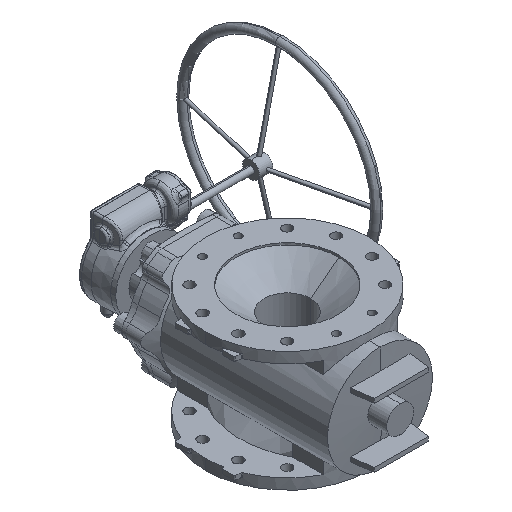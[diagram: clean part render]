
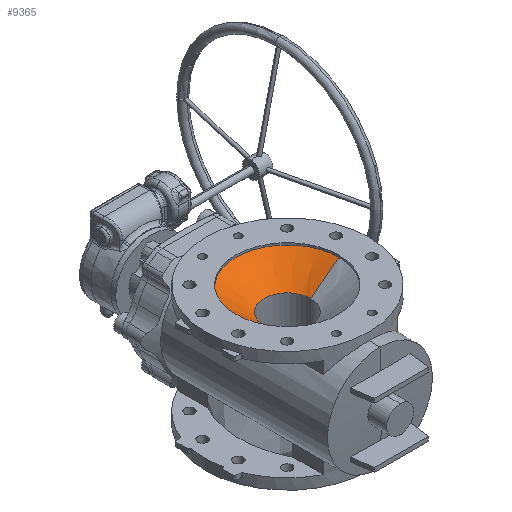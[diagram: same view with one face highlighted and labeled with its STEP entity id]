
A CAD part, isometric view. The second image highlights one B-rep face of the part: STEP entity #9365.
In plain terms, the highlighted conical face has half-angle 52.448 degrees and reference radius 153.666 mm.
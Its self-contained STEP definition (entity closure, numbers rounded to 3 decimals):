
#395 = EDGE_CURVE ( 'Defeatured_0_554+Defeatured_0_510+Defeatured_0_510+Defeatured_0_510', #8111, #19430, #40414, .T. ) ;
#821 = ORIENTED_EDGE ( 'NONE', *, *, #2328, .T. ) ;
#824 = CARTESIAN_POINT ( 'NONE',  ( -49.716, 144.063, 172. ) ) ;
#860 = FACE_OUTER_BOUND ( 'NONE', #43575, .T. ) ;
#2328 = EDGE_CURVE ( 'NONE', #15663, #8111, #29183, .T. ) ;
#2762 = CARTESIAN_POINT ( 'NONE',  ( -41.737, 146.816, 172. ) ) ;
#4722 = CARTESIAN_POINT ( 'NONE',  ( 119.537, 94.861, 172. ) ) ;
#4940 = EDGE_CURVE ( 'NONE', #19430, #28607, #29003, .T. ) ;
#4950 = CARTESIAN_POINT ( 'NONE',  ( 114.476, 100.911, 172. ) ) ;
#5057 = DIRECTION ( 'NONE',  ( 0., 0., 1. ) ) ;
#5164 = CARTESIAN_POINT ( 'NONE',  ( 57.15, 141.497, 172. ) ) ;
#5255 = DIRECTION ( 'NONE',  ( -0.793, 0., 0.609 ) ) ;
#5684 = CONICAL_SURFACE ( 'NONE', #40583, 153.666, 0.915 ) ;
#5886 = CARTESIAN_POINT ( 'NONE',  ( 33.529, 148.905, 172. ) ) ;
#6099 = CARTESIAN_POINT ( 'NONE',  ( 49.716, 144.063, 172. ) ) ;
#6336 = CARTESIAN_POINT ( 'NONE',  ( 41.737, 146.816, 172. ) ) ;
#7244 = CARTESIAN_POINT ( 'NONE',  ( 152.4, 0., 172. ) ) ;
#7302 = CARTESIAN_POINT ( 'NONE',  ( -152.4, 0., 172. ) ) ;
#7725 = ORIENTED_EDGE ( 'NONE', *, *, #35898, .T. ) ;
#8111 = VERTEX_POINT ( 'NONE', #16664 ) ;
#8299 = CARTESIAN_POINT ( 'NONE',  ( 128.666, 82.052, 172. ) ) ;
#8415 = CARTESIAN_POINT ( 'NONE',  ( 0., 0., 108. ) ) ;
#9365 = ADVANCED_FACE ( 'Defeatured_0_554', ( #860 ), #5684, .F. ) ;
#10864 = CARTESIAN_POINT ( 'NONE',  ( -97.547, 117.355, 172. ) ) ;
#11090 = CIRCLE ( 'NONE', #40985, 69.15 ) ;
#11293 = CARTESIAN_POINT ( 'NONE',  ( -139.78, 61.231, 172. ) ) ;
#11642 = CARTESIAN_POINT ( 'NONE',  ( 149.365, 31.27, 172. ) ) ;
#11721 = CARTESIAN_POINT ( 'NONE',  ( -147.549, 38.946, 172. ) ) ;
#12096 = CARTESIAN_POINT ( 'NONE',  ( 139.78, 61.231, 172. ) ) ;
#14471 = DIRECTION ( 'NONE',  ( 0., 0., 1. ) ) ;
#14851 = CARTESIAN_POINT ( 'NONE',  ( -84.949, 126.773, 172. ) ) ;
#15550 = CARTESIAN_POINT ( 'NONE',  ( 153.666, 0., 172.973 ) ) ;
#15663 = VERTEX_POINT ( 'NONE', #7244 ) ;
#15776 = DIRECTION ( 'NONE',  ( 0.793, 0., 0.609 ) ) ;
#15928 = CARTESIAN_POINT ( 'NONE',  ( 16.881, 151.697, 172. ) ) ;
#16530 = ORIENTED_EDGE ( 'NONE', *, *, #395, .T. ) ;
#16664 = CARTESIAN_POINT ( 'NONE',  ( 49.716, 144.063, 172. ) ) ;
#18341 = CARTESIAN_POINT ( 'NONE',  ( 97.547, 117.355, 172. ) ) ;
#18420 = CARTESIAN_POINT ( 'NONE',  ( -49.716, 144.063, 172. ) ) ;
#18563 = CARTESIAN_POINT ( 'NONE',  ( 49.716, 144.063, 172. ) ) ;
#18669 = DIRECTION ( 'NONE',  ( 1., 0., 0. ) ) ;
#19046 = CARTESIAN_POINT ( 'NONE',  ( -33.529, 148.905, 172. ) ) ;
#19373 = CARTESIAN_POINT ( 'NONE',  ( -69.15, 0., 108. ) ) ;
#19430 = VERTEX_POINT ( 'NONE', #824 ) ;
#20117 = DIRECTION ( 'NONE',  ( 1., 0., 0. ) ) ;
#21890 = CARTESIAN_POINT ( 'NONE',  ( 103.48, 112.158, 172. ) ) ;
#22116 = CARTESIAN_POINT ( 'NONE',  ( 84.949, 126.773, 172. ) ) ;
#23117 = EDGE_CURVE ( 'NONE', #24310, #28607, #32911, .T. ) ;
#23270 = CARTESIAN_POINT ( 'NONE',  ( -8.44, 152.4, 172. ) ) ;
#24116 = ORIENTED_EDGE ( 'NONE', *, *, #4940, .T. ) ;
#24310 = VERTEX_POINT ( 'NONE', #19373 ) ;
#24453 = CARTESIAN_POINT ( 'NONE',  ( -128.666, 82.052, 172. ) ) ;
#25453 = CARTESIAN_POINT ( 'NONE',  ( 132.734, 75.294, 172. ) ) ;
#25682 = CARTESIAN_POINT ( 'NONE',  ( 147.549, 38.946, 172. ) ) ;
#26009 = ORIENTED_EDGE ( 'NONE', *, *, #35993, .F. ) ;
#28103 = VERTEX_POINT ( 'NONE', #41445 ) ;
#28607 = VERTEX_POINT ( 'NONE', #31774 ) ;
#28652 = CARTESIAN_POINT ( 'NONE',  ( -114.476, 100.911, 172. ) ) ;
#28791 = CARTESIAN_POINT ( 'NONE',  ( 151.79, 15.729, 172. ) ) ;
#28899 = LINE ( 'NONE', #15550, #42388 ) ;
#29003 = B_SPLINE_CURVE_WITH_KNOTS ( 'NONE', 3,
 ( #18420, #37844, #32012, #35130, #14851, #10864, #35345, #28652, #41827, #24453, #31567, #11293, #42262, #11721, #34926, #38050, #34707, #7302 ),
 .UNSPECIFIED., .F., .F.,
 ( 4, 2, 2, 2, 2, 2, 2, 2, 4 ),
 ( 0., 0.062, 0.125, 0.187, 0.25, 0.312, 0.375, 0.437, 0.5 ),
 .UNSPECIFIED. ) ;
#29183 = B_SPLINE_CURVE_WITH_KNOTS ( 'NONE', 3,
 ( #42636, #35709, #28791, #11642, #25682, #31700, #12096, #25453, #8299, #4722, #4950, #21890, #18341, #22116, #35055, #35492, #5164, #18563 ),
 .UNSPECIFIED., .F., .F.,
 ( 4, 2, 2, 2, 2, 2, 2, 2, 4 ),
 ( 0.5, 0.563, 0.625, 0.688, 0.75, 0.813, 0.875, 0.938, 1. ),
 .UNSPECIFIED. ) ;
#30172 = CARTESIAN_POINT ( 'NONE',  ( 8.44, 152.4, 172. ) ) ;
#31567 = CARTESIAN_POINT ( 'NONE',  ( -132.734, 75.294, 172. ) ) ;
#31700 = CARTESIAN_POINT ( 'NONE',  ( 142.757, 53.927, 172. ) ) ;
#31774 = CARTESIAN_POINT ( 'NONE',  ( -152.4, 0., 172. ) ) ;
#32012 = CARTESIAN_POINT ( 'NONE',  ( -64.385, 138.355, 172. ) ) ;
#32655 = VECTOR ( 'NONE', #5255, 1000. ) ;
#32911 = LINE ( 'NONE', #42501, #32655 ) ;
#33311 = CARTESIAN_POINT ( 'NONE',  ( -16.881, 151.697, 172. ) ) ;
#34707 = CARTESIAN_POINT ( 'NONE',  ( -152.4, 7.864, 172. ) ) ;
#34765 = CARTESIAN_POINT ( 'NONE',  ( 0., 0., 172.973 ) ) ;
#34926 = CARTESIAN_POINT ( 'NONE',  ( -149.365, 31.27, 172. ) ) ;
#35055 = CARTESIAN_POINT ( 'NONE',  ( 78.285, 130.993, 172. ) ) ;
#35130 = CARTESIAN_POINT ( 'NONE',  ( -78.285, 130.993, 172. ) ) ;
#35345 = CARTESIAN_POINT ( 'NONE',  ( -103.48, 112.158, 172. ) ) ;
#35492 = CARTESIAN_POINT ( 'NONE',  ( 64.385, 138.355, 172. ) ) ;
#35639 = ORIENTED_EDGE ( 'NONE', *, *, #23117, .F. ) ;
#35709 = CARTESIAN_POINT ( 'NONE',  ( 152.4, 7.864, 172. ) ) ;
#35898 = EDGE_CURVE ( 'NONE', #28103, #15663, #28899, .T. ) ;
#35993 = EDGE_CURVE ( 'Defeatured_0_561+Defeatured_0_554+Defeatured_0_554+Defeatured_0_554', #28103, #24310, #11090, .T. ) ;
#37844 = CARTESIAN_POINT ( 'NONE',  ( -57.15, 141.497, 172. ) ) ;
#38050 = CARTESIAN_POINT ( 'NONE',  ( -151.79, 15.729, 172. ) ) ;
#40414 = B_SPLINE_CURVE_WITH_KNOTS ( 'NONE', 3,
 ( #6099, #6336, #5886, #15928, #30172, #23270, #33311, #19046, #2762, #43781 ),
 .UNSPECIFIED., .F., .F.,
 ( 4, 2, 2, 2, 4 ),
 ( 0., 0.25, 0.5, 0.75, 1. ),
 .UNSPECIFIED. ) ;
#40583 = AXIS2_PLACEMENT_3D ( 'NONE', #34765, #14471, #20117 ) ;
#40985 = AXIS2_PLACEMENT_3D ( 'NONE', #8415, #5057, #18669 ) ;
#41445 = CARTESIAN_POINT ( 'NONE',  ( 69.15, 0., 108. ) ) ;
#41827 = CARTESIAN_POINT ( 'NONE',  ( -119.537, 94.861, 172. ) ) ;
#42262 = CARTESIAN_POINT ( 'NONE',  ( -142.757, 53.927, 172. ) ) ;
#42388 = VECTOR ( 'NONE', #15776, 1000. ) ;
#42501 = CARTESIAN_POINT ( 'NONE',  ( -153.666, 0., 172.973 ) ) ;
#42636 = CARTESIAN_POINT ( 'NONE',  ( 152.4, 0., 172. ) ) ;
#43575 = EDGE_LOOP ( 'NONE', ( #35639, #26009, #7725, #821, #16530, #24116 ) ) ;
#43781 = CARTESIAN_POINT ( 'NONE',  ( -49.716, 144.063, 172. ) ) ;
